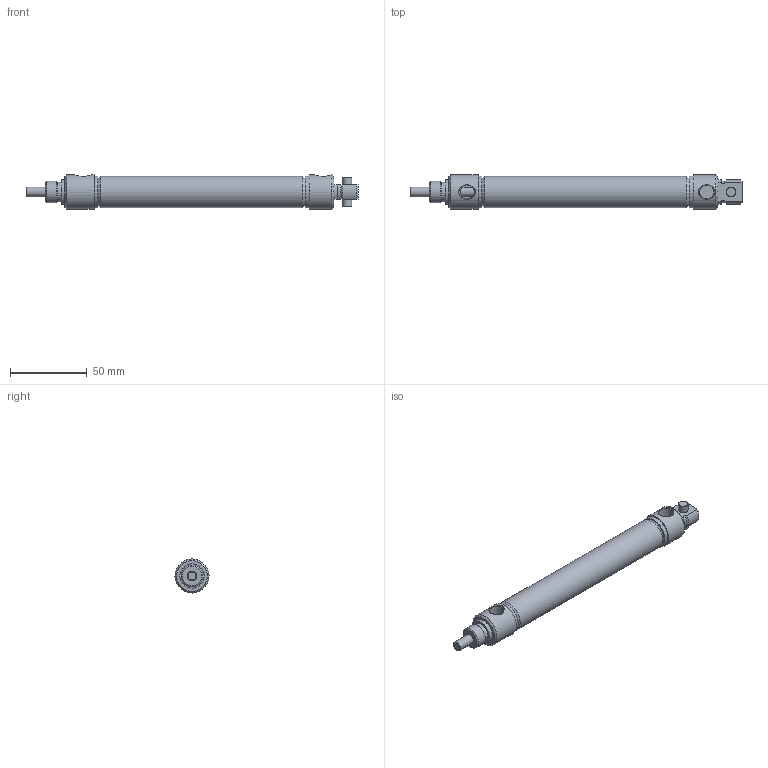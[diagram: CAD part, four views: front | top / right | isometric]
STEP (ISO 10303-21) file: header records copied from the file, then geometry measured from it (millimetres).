
FILE_DESCRIPTION( ( 'STEP AP214' ), '1' );
FILE_NAME( 'p:/temp/worker_410/temp/exporttempdir_4652_98_nyWm7/format_0/0750D02-04A.stp', '2020-05-07T14:39:01', ( 'License CC BY-ND 4.0' ), ( 'CADENAS' ), ' ', 'PARTsolutions', ' ' );
FILE_SCHEMA( ( 'AUTOMOTIVE_DESIGN { 1 0 10303 214 1 1 1 1 }' ) );
Length unit declared in the file: inch
Products named in the file (3): 0750D02-04A; _0750D02-04A-0000A00A0b; _0750D02-04A-0000A00A0r
Assembly tree (2 placements, depth 2):
  0750D02-04A
    _0750D02-04A-0000A00A0b
    _0750D02-04A-0000A00A0r
Bounding box: 216.69 x 22.23 x 22.23 mm (x, y, z)
Volume: 37424.4 mm3; surface area: 28836.5 mm2
Topology: 2 solids, 2 shells, 64 faces, 128 edges, 82 vertices
Faces by surface type: plane 24, cylinder 21, cone 19
Full cylindrical faces by diameter (mm): 6.35 x5, 12.609 x1, 14.287 x1, 15.85 x1, 19.05 x2, 20.472 x1, 20.65 x2, 22.225 x2
Entity records: 2302 total; most frequent: CARTESIAN_POINT 499, DIRECTION 274, ORIENTED_EDGE 198, AXIS2_PLACEMENT_3D 126, EDGE_LOOP 106, EDGE_CURVE 99, FACE_OUTER_BOUND 79, VERTEX_POINT 79
